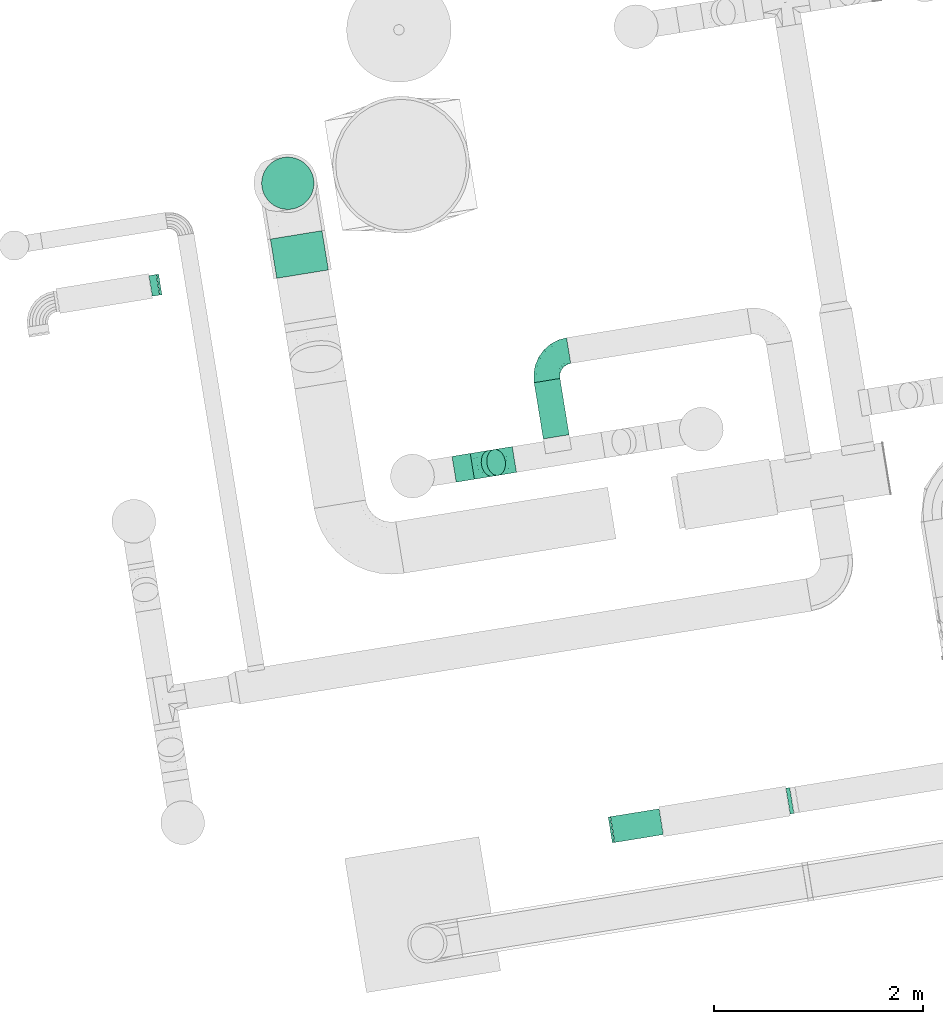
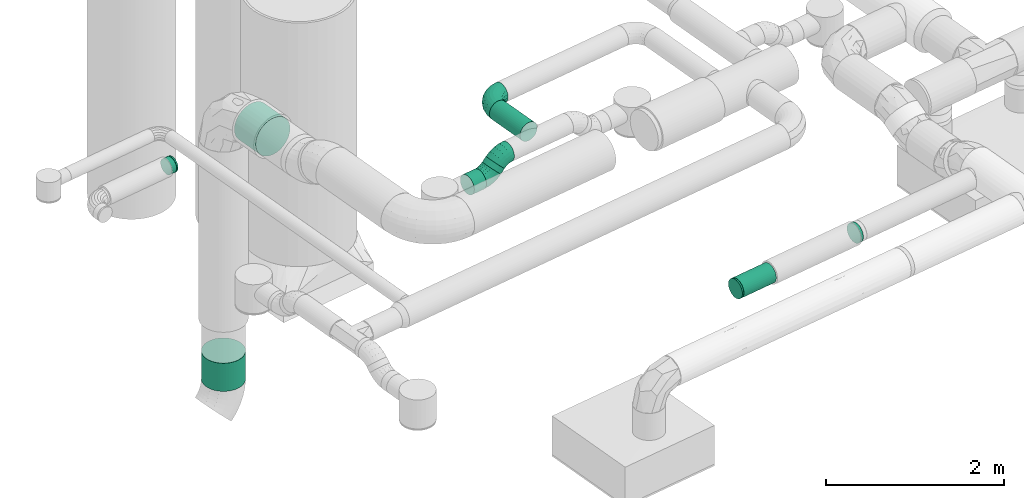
# One storey, part 17 of 39: 8 flow segments, 3 flow fittings, 2 flow terminals.
"""IFC2X3 building model written with IfcOpenShell, lengths in millimetres."""

import ifcopenshell
import ifcopenshell.guid

model = None  # the IFC model being written
_history = None  # IfcOwnerHistory: only IFC2X3 demands one
_inside = {}  # id of a spatial element -> (the spatial element, [elements in it])
_under = {}  # id of a project, library or spatial element -> (it, [spatial elements below it])
_declared = {}  # id of a project -> (the project, [libraries it declares])
_typed = {}  # id of a type object -> (the type object, [elements of that type])
_made_of = {}  # id of a material, layer set ... -> (it, [elements and type objects made of it])


def new_model(schema):
    """Start an empty IFC model of exactly this schema.

    Asked for "IFC4X3", IfcOpenShell would pick the latest addendum, in which some entities
    have other attributes; the version numbers below select the first issue.
    IFC2X3 requires an IfcOwnerHistory on every rooted entity: one is made here for all.
    """
    global model, _history
    if schema == "IFC4X3":
        model = ifcopenshell.file(schema_version=(4, 3, 0, 0))
    else:
        model = ifcopenshell.file(schema=schema)
    _inside.clear()
    _under.clear()
    _declared.clear()
    _typed.clear()
    _made_of.clear()
    _history = None
    if model.schema == "IFC2X3":
        org = make("IfcOrganization", Name="unknown")
        user = make(
            "IfcPersonAndOrganization",
            ThePerson=make("IfcPerson", FamilyName="unknown"),
            TheOrganization=org,
        )
        app = make(
            "IfcApplication",
            ApplicationDeveloper=org,
            Version="unknown",
            ApplicationFullName="unknown",
            ApplicationIdentifier="unknown",
        )
        _history = make(
            "IfcOwnerHistory",
            OwningUser=user,
            OwningApplication=app,
            ChangeAction="ADDED",
            CreationDate=0,
        )
    return model


def make(cls, **values):
    """One entity of the class cls with the attributes given. An attribute that is None is left unset."""
    return model.create_entity(
        cls, **{name: value for name, value in values.items() if value is not None}
    )


def entity(cls, *values):
    """Any entity or typed value of the class cls, its attributes in the order of the schema. None: left unset."""
    e = model.create_entity(cls)
    for i, value in enumerate(values):
        if value is not None:
            e[i] = value
    return e


def rooted(cls, **values):
    """An entity with a GlobalId (a new one), such as an element, a storey or a relation."""
    return make(cls, GlobalId=ifcopenshell.guid.new(), OwnerHistory=_history, **values)


def si_unit(unit_type, name, prefix=None):
    """IfcSIUnit, for example si_unit("LENGTHUNIT", "METRE", prefix="MILLI")."""
    return make("IfcSIUnit", UnitType=unit_type, Prefix=prefix, Name=name)


def converted_unit(unit_type, name, factor, base, dimensions=None, offset=None):
    """IfcConversionBasedUnit, such as the inch: factor (a typed value) times the base unit."""
    return make(
        "IfcConversionBasedUnit"
        if offset is None
        else "IfcConversionBasedUnitWithOffset",
        ConversionOffset=offset,
        Dimensions=None
        if dimensions is None
        else entity("IfcDimensionalExponents", *dimensions),
        UnitType=unit_type,
        Name=name,
        ConversionFactor=make(
            "IfcMeasureWithUnit", ValueComponent=factor, UnitComponent=base
        ),
    )


def derived_unit(unit_type, elements):
    """IfcDerivedUnit: a product of units, each with its exponent."""
    return make(
        "IfcDerivedUnit",
        Elements=[
            make("IfcDerivedUnitElement", Unit=unit, Exponent=power)
            for unit, power in elements
        ],
        UnitType=unit_type,
    )


def assignment(units):
    """IfcUnitAssignment: the units of a project."""
    return None if units is None else make("IfcUnitAssignment", Units=units)


def point(xyz):
    """IfcCartesianPoint."""
    return None if xyz is None else make("IfcCartesianPoint", Coordinates=xyz)


def direction(xyz):
    """IfcDirection."""
    return None if xyz is None else make("IfcDirection", DirectionRatios=xyz)


def frame(location, z_axis=None, x_axis=None):
    """IfcAxis2Placement3D, a coordinate frame: its origin and axes. An axis left out is left unset."""
    return make(
        "IfcAxis2Placement3D",
        Location=point(location),
        Axis=direction(z_axis),
        RefDirection=direction(x_axis),
    )


def frame_2d(location, x_axis=None):
    """IfcAxis2Placement2D, a coordinate frame in the plane: its origin and x axis."""
    return make(
        "IfcAxis2Placement2D", Location=point(location), RefDirection=direction(x_axis)
    )


def origin():
    """The frame at (0, 0, 0) with its axes left unset."""
    return frame((0.0, 0.0, 0.0))


def origin_with_axes():
    """The frame at (0, 0, 0) with the z axis (0, 0, 1) and the x axis (1, 0, 0) written out."""
    return frame((0.0, 0.0, 0.0), z_axis=(0.0, 0.0, 1.0), x_axis=(1.0, 0.0, 0.0))


def origin_2d_with_axis():
    """The frame at (0, 0) in the plane with the x axis (1, 0) written out."""
    return frame_2d((0.0, 0.0), x_axis=(1.0, 0.0))


def place(relative_to, where):
    """IfcLocalPlacement: puts the frame where relative to a parent placement (None: the world)."""
    return make(
        "IfcLocalPlacement", PlacementRelTo=relative_to, RelativePlacement=where
    )


def context(
    kind, dimensions, precision=None, world=None, true_north=None, identifier=None
):
    """IfcGeometricRepresentationContext, for example the 3D "Model" context."""
    return make(
        "IfcGeometricRepresentationContext",
        ContextIdentifier=identifier,
        ContextType=kind,
        CoordinateSpaceDimension=dimensions,
        Precision=precision,
        WorldCoordinateSystem=world,
        TrueNorth=true_north,
    )


def subcontext(parent, identifier, kind, view, scale=None):
    """IfcGeometricRepresentationSubContext, for example "Body" below "Model"."""
    return make(
        "IfcGeometricRepresentationSubContext",
        ContextIdentifier=identifier,
        ContextType=kind,
        ParentContext=parent,
        TargetScale=scale,
        TargetView=view,
    )


def project(units=None, contexts=None):
    """IfcProject with its units and contexts."""
    return rooted(
        "IfcProject",
        Name="project",
        RepresentationContexts=contexts,
        UnitsInContext=assignment(units),
    )


def spatial(cls, under=None, at=None, **own):
    """A site, building, storey or space (cls), placed at a placement, below another one or the project."""
    s = rooted(cls, ObjectPlacement=at, **own)
    if under is not None:
        _under.setdefault(under.id(), (under, []))[1].append(s)
    return s


def profile(cls, at=None, kind="AREA", **sizes):
    """A parametric profile (cls). Its sizes go by their IFC names, for example OverallWidth=200.0."""
    return make(cls, ProfileType=kind, Position=at, **sizes)


def circle(**sizes):
    """IfcCircleProfileDef."""
    return profile("IfcCircleProfileDef", **sizes)


def extrude(swept, where, along, depth):
    """IfcExtrudedAreaSolid: the profile swept, set in the frame where, extruded along a direction by depth."""
    return make(
        "IfcExtrudedAreaSolid",
        SweptArea=swept,
        Position=where,
        ExtrudedDirection=direction(along),
        Depth=depth,
    )


def faces_of(points, faces, orient=None, outer=None):
    """IfcFace entities. A face is a list of loops; a loop is a list of indices into points, from 0.

    orient and outer hold one flag for each loop. By default every Orientation is true, the
    first loop of a face is its IfcFaceOuterBound and the others are IfcFaceBound.
    """
    made = []
    for i, loops in enumerate(faces):
        bounds = []
        for j, loop in enumerate(loops):
            is_outer = j == 0 if outer is None else outer[i][j]
            bounds.append(
                make(
                    "IfcFaceOuterBound" if is_outer else "IfcFaceBound",
                    Bound=make("IfcPolyLoop", Polygon=[points[k] for k in loop]),
                    Orientation=True if orient is None else orient[i][j],
                )
            )
        made.append(make("IfcFace", Bounds=bounds))
    return made


def faceted_brep(points, faces, orient=None, outer=None, voids=None):
    """IfcFacetedBrep: a solid bounded by flat faces; with voids (closed shells), ...WithVoids."""
    shared = [point(p) for p in points]
    hull = make("IfcClosedShell", CfsFaces=faces_of(shared, faces, orient, outer))
    if voids is None:
        return make("IfcFacetedBrep", Outer=hull)
    return make(
        "IfcFacetedBrepWithVoids",
        Outer=hull,
        Voids=[
            make(cls, CfsFaces=faces_of(shared, fs, o, b)) for cls, fs, o, b in voids
        ],
    )


def shape(context_of_items, identifier, shape_type, items):
    """IfcShapeRepresentation: the items that make up one representation, for example the "Body"."""
    return make(
        "IfcShapeRepresentation",
        ContextOfItems=context_of_items,
        RepresentationIdentifier=identifier,
        RepresentationType=shape_type,
        Items=items,
    )


def source(mapping_origin, context_of_items, identifier, shape_type, items):
    """IfcRepresentationMap: a shape defined once, which mapped items show again and again."""
    return make(
        "IfcRepresentationMap",
        MappingOrigin=mapping_origin,
        MappedRepresentation=shape(context_of_items, identifier, shape_type, items),
    )


def transform(
    local_origin,
    x_axis=None,
    y_axis=None,
    z_axis=None,
    scale=None,
    scale2=None,
    scale3=None,
    uniform=True,
):
    """IfcCartesianTransformationOperator3D, or its non-uniform kind. x_axis, y_axis, z_axis: its Axis1, 2, 3."""
    if uniform:
        return make(
            "IfcCartesianTransformationOperator3D",
            Axis1=direction(x_axis),
            Axis2=direction(y_axis),
            LocalOrigin=point(local_origin),
            Scale=scale,
            Axis3=direction(z_axis),
        )
    return make(
        "IfcCartesianTransformationOperator3DnonUniform",
        Axis1=direction(x_axis),
        Axis2=direction(y_axis),
        LocalOrigin=point(local_origin),
        Scale=scale,
        Axis3=direction(z_axis),
        Scale2=scale2,
        Scale3=scale3,
    )


def mapped(mapping_source, mapping_target):
    """IfcMappedItem: shows the shape of a source again, moved by a transform."""
    return make(
        "IfcMappedItem", MappingSource=mapping_source, MappingTarget=mapping_target
    )


def material(Name=None, Category=None):
    """IfcMaterial."""
    return make("IfcMaterial", Name=Name, Category=Category)


def made_of(thing, what):
    """Note that an element or type object is made of a material, layer set ...; save() writes the relation."""
    if what is not None:
        _made_of.setdefault(what.id(), (what, []))[1].append(thing)
    return thing


def type_object(cls, material=None, **own):
    """A type object (cls), such as IfcWallType, which elements share."""
    return made_of(rooted(cls, **own), material)


def element(
    cls,
    number,
    at=None,
    inside=None,
    cuts=None,
    type_object=None,
    material=None,
    context=None,
    identifier="Body",
    shape_type=None,
    held_by="IfcProductDefinitionShape",
    body=None,
    shapes=None,
    **own,
):
    """One element of the class cls, such as IfcWall. Its Tag is "e" and its number.

    at: its placement. inside: the storey or other place that contains it. cuts: it is an
    opening in that element (IfcRelVoidsElement). A single representation is given by context,
    identifier, shape_type and body (its items); several are given by shapes. held_by: the class
    of the entity that holds the representations. save() writes the other relations.
    """
    e = rooted(cls, Tag="e%d" % number, ObjectPlacement=at, **own)
    if body is not None:
        shapes = [shape(context, identifier, shape_type, body)]
    if shapes is not None:
        e.Representation = make(held_by, Representations=shapes)
    if inside is not None:
        _inside.setdefault(inside.id(), (inside, []))[1].append(e)
    if cuts is not None:
        rooted(
            "IfcRelVoidsElement", RelatingBuildingElement=cuts, RelatedOpeningElement=e
        )
    if type_object is not None:
        _typed.setdefault(type_object.id(), (type_object, []))[1].append(e)
    return made_of(e, material)


def aggregate(whole, parts):
    """IfcRelAggregates: a whole, such as a stair, and the parts it consists of."""
    return rooted("IfcRelAggregates", RelatingObject=whole, RelatedObjects=parts)


def save(model, path):
    """Write the relations noted so far, then the file.

    IfcRelAggregates (storeys below a building ...), IfcRelContainedInSpatialStructure (elements
    in a storey), IfcRelDefinesByType, IfcRelAssociatesMaterial and IfcRelDeclares: one each for
    every whole, place, type object, material and project.
    """
    for whole, parts in _under.values():
        aggregate(whole, parts)
    for where, things in _inside.values():
        rooted(
            "IfcRelContainedInSpatialStructure",
            RelatedElements=things,
            RelatingStructure=where,
        )
    for kind, things in _typed.values():
        rooted("IfcRelDefinesByType", RelatedObjects=things, RelatingType=kind)
    for what, things in _made_of.values():
        rooted("IfcRelAssociatesMaterial", RelatedObjects=things, RelatingMaterial=what)
    for by, libraries in _declared.values():
        rooted("IfcRelDeclares", RelatingContext=by, RelatedDefinitions=libraries)
    model.write(path)


model = new_model("IFC2X3")

# Units and contexts
model_context = context("Model", 3, precision=0.01, world=origin(), true_north=direction((6.12323399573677e-17, 1.0)))
plan_context = context("Plan", 3, precision=1e-05, world=origin_with_axes())
body_context = subcontext(model_context, "Body", "Model", "MODEL_VIEW")
ifc_project = project(units=[converted_unit("PLANEANGLEUNIT", "DEGREE", entity("IfcPositiveLengthMeasure", 0.0174532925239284), si_unit("PLANEANGLEUNIT", "RADIAN"), dimensions=[0, 0, 0, 0, 0, 0, 0]), si_unit("AREAUNIT", "SQUARE_METRE"), si_unit("LENGTHUNIT", "METRE", prefix="MILLI"), si_unit("MASSUNIT", "GRAM", prefix="KILO"), si_unit("POWERUNIT", "WATT"), si_unit("PRESSUREUNIT", "PASCAL", prefix="KILO"), si_unit("FORCEUNIT", "NEWTON", prefix="KILO"), si_unit("ELECTRICVOLTAGEUNIT", "VOLT"), si_unit("ELECTRICCURRENTUNIT", "AMPERE"), si_unit("THERMODYNAMICTEMPERATUREUNIT", "DEGREE_CELSIUS"), si_unit("TIMEUNIT", "SECOND"), si_unit("VOLUMEUNIT", "CUBIC_METRE"), derived_unit("LINEARVELOCITYUNIT", [(si_unit("LENGTHUNIT", "METRE"), 1), (si_unit("TIMEUNIT", "SECOND"), -1)]), derived_unit("VOLUMETRICFLOWRATEUNIT", [(si_unit("VOLUMEUNIT", "CUBIC_METRE"), 1), (si_unit("TIMEUNIT", "SECOND"), -1)]), derived_unit("THERMALTRANSMITTANCEUNIT", [(si_unit("POWERUNIT", "WATT"), 1), (si_unit("THERMODYNAMICTEMPERATUREUNIT", "KELVIN"), -1), (si_unit("AREAUNIT", "SQUARE_METRE"), -1)]), derived_unit("SOUNDPRESSUREUNIT", [(si_unit("PRESSUREUNIT", "PASCAL"), 1)])], contexts=[model_context, plan_context])

# Site, building, storey
site_placement = place(None, frame((-0.00071070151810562, 0.00438415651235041, 0.0), z_axis=(0.0, 0.0, 1.0), x_axis=(-0.160236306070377, 0.987078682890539, 0.0)))
site = spatial("IfcSite", under=ifc_project, at=site_placement, Name="Default", CompositionType="ELEMENT")
building_placement = place(site_placement, origin_with_axes())
building = spatial("IfcBuilding", under=site, at=building_placement, CompositionType="ELEMENT")
storey_placement = place(building_placement, frame((0.0, 0.0, 50999.9999999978), z_axis=(0.0, 0.0, 1.0), x_axis=(1.0, 0.0, 0.0)))
storey = spatial("IfcBuildingStorey", under=building, at=storey_placement, Name="Nivå D", CompositionType="ELEMENT", Elevation=50999.9999999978)

# Flow fittings
ifc_material = material(Name="<Unnamed>")
duct_fitting_type_1 = type_object("IfcDuctFittingType", Name="magicirc_elbow_full_radius_1:magicirc_elbow_full_radius_001", PredefinedType="NOTDEFINED", material=ifc_material)
shared_shape_1 = source(origin(), body_context, "Body", "Brep", [
    faceted_brep([(-30.3945198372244, 117.794480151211, 0.0), (-31.5880698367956, 111.79409910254, -38.6271242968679), (-103.553390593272, 118.882064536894, -38.6271242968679), (-103.553390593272, 125.0, 0.0), (-35.0518868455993, 94.3803150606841, -73.4731565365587), (-103.553390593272, 101.127124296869, -73.4731565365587), (-40.4469083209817, 67.2577105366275, -101.127124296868), (-103.553390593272, 73.4731565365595, -101.127124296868), (-47.2450319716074, 33.0812350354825, -118.882064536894), (-103.553390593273, 38.6271242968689, -118.882064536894), (-54.7808100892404, -4.80367989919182, -125.0), (-103.553390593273, 0.0, -125.0), (-62.3165882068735, -42.6885948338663, -118.882064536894), (-103.553390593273, -38.6271242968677, -118.882064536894), (-69.1147118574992, -76.8650703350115, -101.127124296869), (-103.553390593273, -73.4731565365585, -101.127124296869), (-74.5097333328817, -103.987674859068, -73.4731565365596), (-103.553390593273, -101.127124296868, -73.4731565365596), (-77.9735503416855, -121.401458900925, -38.6271242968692), (-103.553390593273, -118.882064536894, -38.6271242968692), (-79.1671003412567, -127.401839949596, 0.0), (-103.553390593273, -125.0, 0.0), (-77.9735503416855, -121.401458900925, 38.6271242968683), (-103.553390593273, -118.882064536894, 38.6271242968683), (-74.5097333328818, -103.987674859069, 73.4731565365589), (-103.553390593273, -101.127124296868, 73.4731565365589), (-69.1147118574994, -76.8650703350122, 101.127124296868), (-103.553390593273, -73.4731565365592, 101.127124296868), (-62.3165882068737, -42.6885948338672, 118.882064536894), (-103.553390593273, -38.6271242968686, 118.882064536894), (-54.7808100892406, -4.80367989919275, 125.0), (-103.553390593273, 0.0, 125.0), (-47.2450319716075, 33.0812350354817, 118.882064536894), (-103.553390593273, 38.6271242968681, 118.882064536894), (-40.4469083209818, 67.2577105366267, 101.127124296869), (-103.553390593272, 73.4731565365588, 101.127124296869), (-35.0518868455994, 94.3803150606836, 73.4731565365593), (-103.553390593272, 101.127124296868, 73.4731565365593), (-31.5880698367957, 111.79409910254, 38.6271242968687), (-103.553390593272, 118.882064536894, 38.6271242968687), (39.952896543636, 96.4548246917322, 0.0), (37.6116640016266, 90.8025893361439, -38.6271242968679), (30.8171425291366, 74.3991634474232, -73.4731565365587), (20.2344272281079, 48.8502286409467, -101.127124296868), (6.89942800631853, 16.6566926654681, -118.882064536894), (-7.88253250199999, -19.0301168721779, -125.0), (-22.6644930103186, -54.716926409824, -118.882064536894), (-35.9994922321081, -86.9104623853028, -101.127124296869), (-46.5822075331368, -112.45939719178, -73.4731565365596), (-53.376729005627, -128.862823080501, -38.6271242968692), (-55.7179615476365, -134.515058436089, 0.0), (-53.3767290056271, -128.862823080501, 38.6271242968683), (-46.582207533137, -112.45939719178, 73.4731565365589), (-35.9994922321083, -86.9104623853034, 101.127124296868), (-22.6644930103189, -54.7169264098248, 118.882064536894), (-7.88253250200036, -19.0301168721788, 125.0), (6.89942800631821, 16.6566926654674, 118.882064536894), (20.2344272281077, 48.850228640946, 101.127124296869), (30.8171425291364, 74.3991634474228, 73.4731565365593), (37.6116640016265, 90.8025893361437, 38.6271242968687), (104.785446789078, 61.801104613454, 0.0), (101.386503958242, 56.7142271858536, -38.6271242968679), (91.5223876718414, 41.9515339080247, -73.4731565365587), (76.1586663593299, 18.9581000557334, -101.127124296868), (56.7992481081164, -10.0153168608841, -118.882064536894), (35.3391676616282, -42.1325969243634, -125.0), (13.8790872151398, -74.2498769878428, -118.882064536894), (-5.48033103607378, -103.22329390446, -101.127124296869), (-20.8440523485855, -126.216727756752, -73.4731565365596), (-30.7081686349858, -140.979421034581, -38.6271242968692), (-34.1071114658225, -146.066298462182, 0.0), (-30.7081686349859, -140.979421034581, 38.6271242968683), (-20.8440523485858, -126.216727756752, 73.4731565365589), (-5.48033103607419, -103.223293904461, 101.127124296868), (13.8790872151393, -74.2498769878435, 118.882064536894), (35.3391676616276, -42.1325969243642, 125.0), (56.799248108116, -10.0153168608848, 118.882064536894), (76.1586663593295, 18.9581000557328, 101.127124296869), (91.5223876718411, 41.9515339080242, 73.4731565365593), (101.386503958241, 56.7142271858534, 38.6271242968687), (161.611652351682, 15.1650429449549, 0.0), (157.285618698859, 10.8390092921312, -38.6271242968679), (144.730980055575, -1.71562935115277, -73.4731565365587), (125.176671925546, -21.2699374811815, -101.127124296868), (100.536806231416, -45.9098031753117, -118.882064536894), (73.2233047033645, -73.2233047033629, -125.0), (45.9098031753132, -100.536806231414, -118.882064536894), (21.2699374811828, -125.176671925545, -101.127124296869), (1.71562935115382, -144.730980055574, -73.4731565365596), (-10.8390092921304, -157.285618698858, -38.6271242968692), (-15.1650429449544, -161.611652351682, 0.0), (-10.8390092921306, -157.285618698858, 38.6271242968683), (1.71562935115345, -144.730980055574, 73.4731565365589), (21.2699374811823, -125.176671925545, 101.127124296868), (45.9098031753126, -100.536806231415, 118.882064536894), (73.2233047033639, -73.2233047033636, 125.0), (100.536806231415, -45.9098031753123, 118.882064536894), (125.176671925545, -21.269937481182, 101.127124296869), (144.730980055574, -1.71562935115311, 73.4731565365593), (157.285618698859, 10.8390092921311, 38.6271242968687)], [[[0, 1, 2, 3]], [[1, 4, 5, 2]], [[4, 6, 7, 5]], [[6, 8, 9, 7]], [[8, 10, 11, 9]], [[10, 12, 13, 11]], [[12, 14, 15, 13]], [[14, 16, 17, 15]], [[16, 18, 19, 17]], [[18, 20, 21, 19]], [[20, 22, 23, 21]], [[22, 24, 25, 23]], [[24, 26, 27, 25]], [[26, 28, 29, 27]], [[28, 30, 31, 29]], [[30, 32, 33, 31]], [[32, 34, 35, 33]], [[34, 36, 37, 35]], [[36, 38, 39, 37]], [[38, 0, 3, 39]], [[40, 41, 1, 0]], [[41, 42, 4, 1]], [[42, 43, 6, 4]], [[43, 44, 8, 6]], [[44, 45, 10, 8]], [[45, 46, 12, 10]], [[46, 47, 14, 12]], [[47, 48, 16, 14]], [[48, 49, 18, 16]], [[49, 50, 20, 18]], [[50, 51, 22, 20]], [[51, 52, 24, 22]], [[52, 53, 26, 24]], [[53, 54, 28, 26]], [[54, 55, 30, 28]], [[55, 56, 32, 30]], [[56, 57, 34, 32]], [[57, 58, 36, 34]], [[58, 59, 38, 36]], [[59, 40, 0, 38]], [[60, 61, 41, 40]], [[61, 62, 42, 41]], [[62, 63, 43, 42]], [[63, 64, 44, 43]], [[64, 65, 45, 44]], [[65, 66, 46, 45]], [[66, 67, 47, 46]], [[67, 68, 48, 47]], [[68, 69, 49, 48]], [[69, 70, 50, 49]], [[70, 71, 51, 50]], [[71, 72, 52, 51]], [[72, 73, 53, 52]], [[73, 74, 54, 53]], [[74, 75, 55, 54]], [[75, 76, 56, 55]], [[76, 77, 57, 56]], [[77, 78, 58, 57]], [[78, 79, 59, 58]], [[79, 60, 40, 59]], [[80, 81, 61, 60]], [[81, 82, 62, 61]], [[82, 83, 63, 62]], [[83, 84, 64, 63]], [[84, 85, 65, 64]], [[85, 86, 66, 65]], [[86, 87, 67, 66]], [[87, 88, 68, 67]], [[88, 89, 69, 68]], [[89, 90, 70, 69]], [[90, 91, 71, 70]], [[91, 92, 72, 71]], [[92, 93, 73, 72]], [[93, 94, 74, 73]], [[94, 95, 75, 74]], [[95, 96, 76, 75]], [[96, 97, 77, 76]], [[97, 98, 78, 77]], [[98, 99, 79, 78]], [[99, 80, 60, 79]], [[3, 2, 5, 7, 9, 11, 13, 15, 17, 19, 21, 23, 25, 27, 29, 31, 33, 35, 37, 39]], [[99, 98, 97, 96, 95, 94, 93, 92, 91, 90, 89, 88, 87, 86, 85, 84, 83, 82, 81, 80]]]),
])
for number, where, z_axis, x_axis, name in (
    (1, (773669.47928963, -596649.126266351, 3310.0), (1.0, 0.0, 0.0), (0.0, 1.0, 0.0), "magicirc_elbow_full_radius_1:magicirc_elbow_full_radius_001"),
    (2, (773669.479289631, -596449.126266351, 3110.0), (1.0, 0.0, 0.0), (0.0, -1.0, 0.0), "magicirc_elbow_full_radius_1:magicirc_elbow_full_radius_001"),
):
    element("IfcFlowFitting", number, at=place(storey_placement, frame(where, z_axis=z_axis, x_axis=x_axis)), inside=storey, type_object=duct_fitting_type_1, material=ifc_material, Name=name, ObjectType="magicirc_elbow_full_radius_1:magicirc_elbow_full_radius_001", context=body_context, shape_type="MappedRepresentation", body=[
        mapped(shared_shape_1, transform((0.0, 0.0, 0.0), scale=1.0)),
    ])
duct_fitting_type_2 = type_object("IfcDuctFittingType", Name="magicirc_elbow_full_radius_1:magicirc_elbow_full_radius_001", PredefinedType="NOTDEFINED", material=ifc_material)
shared_shape_2 = source(origin(), body_context, "Body", "Brep", [
    faceted_brep([(-166.554649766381, -115.597967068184, 0.0), (-167.916018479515, -109.633421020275, 38.6271242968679), (-250.0, -118.882064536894, 38.6271242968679), (-250.0, -125.0, 0.0), (-171.866864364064, -92.3236342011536, 73.4731565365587), (-250.0, -101.127124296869, 73.4731565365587), (-178.020451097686, -65.363009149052, 101.127124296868), (-250.0, -73.4731565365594, 101.127124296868), (-185.774422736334, -31.3906396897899, 118.882064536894), (-250.0, -38.6271242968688, 118.882064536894), (-194.36976651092, 6.26802195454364, 125.0), (-250.0, 0.0, 125.0), (-202.965110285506, 43.9266835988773, 118.882064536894), (-250.0, 38.6271242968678, 118.882064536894), (-210.719081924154, 77.8990530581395, 101.127124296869), (-250.0, 73.4731565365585, 101.127124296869), (-216.872668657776, 104.859678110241, 73.4731565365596), (-250.0, 101.127124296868, 73.4731565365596), (-220.823514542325, 122.169464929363, 38.6271242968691), (-250.0, 118.882064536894, 38.6271242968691), (-222.18488325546, 128.134010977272, 0.0), (-250.0, 125.0, 0.0), (-220.823514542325, 122.169464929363, -38.6271242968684), (-250.0, 118.882064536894, -38.6271242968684), (-216.872668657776, 104.859678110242, -73.473156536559), (-250.0, 101.127124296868, -73.473156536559), (-210.719081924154, 77.8990530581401, -101.127124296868), (-250.0, 73.4731565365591, -101.127124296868), (-202.965110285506, 43.926683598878, -118.882064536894), (-250.0, 38.6271242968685, -118.882064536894), (-194.36976651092, 6.26802195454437, -125.0), (-250.0, 0.0, -125.0), (-185.774422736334, -31.3906396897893, -118.882064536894), (-250.0, -38.6271242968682, -118.882064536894), (-178.020451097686, -65.3630091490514, -101.127124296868), (-250.0, -73.4731565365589, -101.127124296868), (-171.866864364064, -92.3236342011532, -73.4731565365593), (-250.0, -101.127124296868, -73.4731565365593), (-167.916018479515, -109.633421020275, -38.6271242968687), (-250.0, -118.882064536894, -38.6271242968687), (-87.2935978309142, -87.8633254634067, 0.0), (-89.9480705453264, -82.3512560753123, 38.6271242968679), (-97.6516504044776, -66.3546076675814, 73.4731565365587), (-109.650257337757, -41.4392436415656, 101.127124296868), (-124.769384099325, -10.0440534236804, 118.882064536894), (-141.529065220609, 24.7577830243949, 125.0), (-158.288746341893, 59.5596194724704, 118.882064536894), (-173.407873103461, 90.9548096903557, 101.127124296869), (-185.406480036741, 115.870173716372, 73.4731565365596), (-193.110059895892, 131.866822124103, 38.6271242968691), (-195.764532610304, 137.378891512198, 0.0), (-193.110059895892, 131.866822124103, -38.6271242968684), (-185.406480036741, 115.870173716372, -73.473156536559), (-173.407873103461, 90.9548096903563, -101.127124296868), (-158.288746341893, 59.5596194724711, -118.882064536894), (-141.529065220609, 24.7577830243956, -125.0), (-124.769384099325, -10.0440534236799, -118.882064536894), (-109.650257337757, -41.4392436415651, -101.127124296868), (-97.6516504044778, -66.354607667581, -73.4731565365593), (-89.9480705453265, -82.3512560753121, -38.6271242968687), (-16.1913243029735, -43.1868059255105, 0.0), (-20.0057946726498, -38.4036113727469, 38.6271242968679), (-31.0758188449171, -24.5222401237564, 73.4731565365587), (-48.3177857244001, -2.90149751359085, 101.127124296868), (-70.0439314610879, 24.3422275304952, 118.882064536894), (-94.127549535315, 54.5421293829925, 125.0), (-118.211167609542, 84.7420312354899, 118.882064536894), (-139.93731334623, 111.985756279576, 101.127124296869), (-157.179280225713, 133.606498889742, 73.4731565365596), (-168.249304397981, 147.487870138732, 38.6271242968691), (-172.063774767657, 152.271064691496, 0.0), (-168.249304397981, 147.487870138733, -38.6271242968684), (-157.179280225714, 133.606498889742, -73.473156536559), (-139.937313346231, 111.985756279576, -101.127124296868), (-118.211167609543, 84.7420312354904, -118.882064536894), (-94.1275495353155, 54.5421293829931, -125.0), (-70.0439314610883, 24.3422275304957, -118.882064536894), (-48.3177857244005, -2.9014975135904, -101.127124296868), (-31.0758188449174, -24.5222401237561, -73.4731565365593), (-20.00579467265, -38.4036113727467, -38.6271242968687), (43.1868059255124, 16.1913243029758, 0.0), (38.4036113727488, 20.005794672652, 38.6271242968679), (24.5222401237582, 31.0758188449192, 73.4731565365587), (2.9014975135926, 48.3177857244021, 101.127124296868), (-24.3422275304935, 70.0439314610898, 118.882064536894), (-54.5421293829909, 94.1275495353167, 125.0), (-84.7420312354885, 118.211167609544, 118.882064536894), (-111.985756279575, 139.937313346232, 101.127124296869), (-133.60649888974, 157.179280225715, 73.4731565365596), (-147.487870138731, 168.249304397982, 38.6271242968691), (-152.271064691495, 172.063774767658, 0.0), (-147.487870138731, 168.249304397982, -38.6271242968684), (-133.606498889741, 157.179280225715, -73.473156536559), (-111.985756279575, 139.937313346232, -101.127124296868), (-84.742031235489, 118.211167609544, -118.882064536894), (-54.5421293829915, 94.1275495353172, -125.0), (-24.342227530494, 70.0439314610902, -118.882064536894), (2.90149751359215, 48.3177857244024, -101.127124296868), (24.5222401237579, 31.0758188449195, -73.4731565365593), (38.4036113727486, 20.0057946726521, -38.6271242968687), (87.8633254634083, 87.2935978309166, 0.0), (82.3512560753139, 89.9480705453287, 38.6271242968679), (66.3546076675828, 97.6516504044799, 73.4731565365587), (41.4392436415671, 109.650257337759, 101.127124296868), (10.0440534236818, 124.769384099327, 118.882064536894), (-24.7577830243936, 141.529065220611, 125.0), (-59.5596194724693, 158.288746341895, 118.882064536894), (-90.9548096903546, 173.407873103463, 101.127124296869), (-115.870173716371, 185.406480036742, 73.4731565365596), (-131.866822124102, 193.110059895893, 38.6271242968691), (-137.378891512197, 195.764532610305, 0.0), (-131.866822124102, 193.110059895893, -38.6271242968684), (-115.870173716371, 185.406480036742, -73.473156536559), (-90.9548096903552, 173.407873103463, -101.127124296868), (-59.5596194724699, 158.288746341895, -118.882064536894), (-24.7577830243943, 141.529065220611, -125.0), (10.0440534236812, 124.769384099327, -118.882064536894), (41.4392436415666, 109.650257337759, -101.127124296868), (66.3546076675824, 97.65165040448, -73.4731565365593), (82.3512560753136, 89.9480705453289, -38.6271242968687), (115.597967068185, 166.554649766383, 0.0), (109.633421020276, 167.916018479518, 38.6271242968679), (92.3236342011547, 171.866864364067, 73.4731565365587), (65.3630091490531, 178.020451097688, 101.127124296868), (31.390639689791, 185.774422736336, 118.882064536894), (-6.26802195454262, 194.369766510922, 125.0), (-43.9266835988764, 202.965110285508, 118.882064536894), (-77.8990530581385, 210.719081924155, 101.127124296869), (-104.85967811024, 216.872668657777, 73.4731565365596), (-122.169464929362, 220.823514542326, 38.6271242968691), (-128.134010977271, 222.184883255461, 0.0), (-122.169464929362, 220.823514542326, -38.6271242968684), (-104.859678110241, 216.872668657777, -73.473156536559), (-77.8990530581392, 210.719081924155, -101.127124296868), (-43.926683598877, 202.965110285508, -118.882064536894), (-6.26802195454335, 194.369766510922, -125.0), (31.3906396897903, 185.774422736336, -118.882064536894), (65.3630091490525, 178.020451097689, -101.127124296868), (92.3236342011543, 171.866864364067, -73.4731565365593), (109.633421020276, 167.916018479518, -38.6271242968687), (125.0, 250.0, 0.0), (118.882064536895, 250.0, 38.6271242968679), (101.127124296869, 250.0, 73.4731565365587), (73.4731565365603, 250.0, 101.127124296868), (38.6271242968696, 250.0, 118.882064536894), (0.0, 250.0, 125.0), (-38.627124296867, 250.0, 118.882064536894), (-73.4731565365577, 250.0, 101.127124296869), (-101.127124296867, 250.0, 73.4731565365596), (-118.882064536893, 250.0, 38.6271242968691), (-125.0, 250.0, 0.0), (-118.882064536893, 250.0, -38.6271242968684), (-101.127124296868, 250.0, -73.473156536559), (-73.4731565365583, 250.0, -101.127124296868), (-38.6271242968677, 250.0, -118.882064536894), (0.0, 250.0, -125.0), (38.627124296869, 250.0, -118.882064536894), (73.4731565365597, 250.0, -101.127124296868), (101.127124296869, 250.0, -73.4731565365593), (118.882064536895, 250.0, -38.6271242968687)], [[[0, 1, 2, 3]], [[1, 4, 5, 2]], [[4, 6, 7, 5]], [[6, 8, 9, 7]], [[8, 10, 11, 9]], [[10, 12, 13, 11]], [[12, 14, 15, 13]], [[14, 16, 17, 15]], [[16, 18, 19, 17]], [[18, 20, 21, 19]], [[20, 22, 23, 21]], [[22, 24, 25, 23]], [[24, 26, 27, 25]], [[26, 28, 29, 27]], [[28, 30, 31, 29]], [[30, 32, 33, 31]], [[32, 34, 35, 33]], [[34, 36, 37, 35]], [[36, 38, 39, 37]], [[38, 0, 3, 39]], [[40, 41, 1, 0]], [[41, 42, 4, 1]], [[42, 43, 6, 4]], [[43, 44, 8, 6]], [[44, 45, 10, 8]], [[45, 46, 12, 10]], [[46, 47, 14, 12]], [[47, 48, 16, 14]], [[48, 49, 18, 16]], [[49, 50, 20, 18]], [[50, 51, 22, 20]], [[51, 52, 24, 22]], [[52, 53, 26, 24]], [[53, 54, 28, 26]], [[54, 55, 30, 28]], [[55, 56, 32, 30]], [[56, 57, 34, 32]], [[57, 58, 36, 34]], [[58, 59, 38, 36]], [[59, 40, 0, 38]], [[60, 61, 41, 40]], [[61, 62, 42, 41]], [[62, 63, 43, 42]], [[63, 64, 44, 43]], [[64, 65, 45, 44]], [[65, 66, 46, 45]], [[66, 67, 47, 46]], [[67, 68, 48, 47]], [[68, 69, 49, 48]], [[69, 70, 50, 49]], [[70, 71, 51, 50]], [[71, 72, 52, 51]], [[72, 73, 53, 52]], [[73, 74, 54, 53]], [[74, 75, 55, 54]], [[75, 76, 56, 55]], [[76, 77, 57, 56]], [[77, 78, 58, 57]], [[78, 79, 59, 58]], [[79, 60, 40, 59]], [[80, 81, 61, 60]], [[81, 82, 62, 61]], [[82, 83, 63, 62]], [[83, 84, 64, 63]], [[84, 85, 65, 64]], [[85, 86, 66, 65]], [[86, 87, 67, 66]], [[87, 88, 68, 67]], [[88, 89, 69, 68]], [[89, 90, 70, 69]], [[90, 91, 71, 70]], [[91, 92, 72, 71]], [[92, 93, 73, 72]], [[93, 94, 74, 73]], [[94, 95, 75, 74]], [[95, 96, 76, 75]], [[96, 97, 77, 76]], [[97, 98, 78, 77]], [[98, 99, 79, 78]], [[99, 80, 60, 79]], [[100, 101, 81, 80]], [[101, 102, 82, 81]], [[102, 103, 83, 82]], [[103, 104, 84, 83]], [[104, 105, 85, 84]], [[105, 106, 86, 85]], [[106, 107, 87, 86]], [[107, 108, 88, 87]], [[108, 109, 89, 88]], [[109, 110, 90, 89]], [[110, 111, 91, 90]], [[111, 112, 92, 91]], [[112, 113, 93, 92]], [[113, 114, 94, 93]], [[114, 115, 95, 94]], [[115, 116, 96, 95]], [[116, 117, 97, 96]], [[117, 118, 98, 97]], [[118, 119, 99, 98]], [[119, 100, 80, 99]], [[120, 121, 101, 100]], [[121, 122, 102, 101]], [[122, 123, 103, 102]], [[123, 124, 104, 103]], [[124, 125, 105, 104]], [[125, 126, 106, 105]], [[126, 127, 107, 106]], [[127, 128, 108, 107]], [[128, 129, 109, 108]], [[129, 130, 110, 109]], [[130, 131, 111, 110]], [[131, 132, 112, 111]], [[132, 133, 113, 112]], [[133, 134, 114, 113]], [[134, 135, 115, 114]], [[135, 136, 116, 115]], [[136, 137, 117, 116]], [[137, 138, 118, 117]], [[138, 139, 119, 118]], [[139, 120, 100, 119]], [[140, 141, 121, 120]], [[141, 142, 122, 121]], [[142, 143, 123, 122]], [[143, 144, 124, 123]], [[144, 145, 125, 124]], [[145, 146, 126, 125]], [[146, 147, 127, 126]], [[147, 148, 128, 127]], [[148, 149, 129, 128]], [[149, 150, 130, 129]], [[150, 151, 131, 130]], [[151, 152, 132, 131]], [[152, 153, 133, 132]], [[153, 154, 134, 133]], [[154, 155, 135, 134]], [[155, 156, 136, 135]], [[156, 157, 137, 136]], [[157, 158, 138, 137]], [[158, 159, 139, 138]], [[159, 140, 120, 139]], [[3, 2, 5, 7, 9, 11, 13, 15, 17, 19, 21, 23, 25, 27, 29, 31, 33, 35, 37, 39]], [[159, 158, 157, 156, 155, 154, 153, 152, 151, 150, 149, 148, 147, 146, 145, 144, 143, 142, 141, 140]]]),
])
flow_fitting_placement = place(storey_placement, frame((774614.47928963, -597182.555921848, 3310.0), z_axis=(0.0, 0.0, 1.0), x_axis=(0.0, 1.0, 0.0)))
element("IfcFlowFitting", 3, at=flow_fitting_placement, inside=storey, type_object=duct_fitting_type_2, material=ifc_material, Name="magicirc_elbow_full_radius_1:magicirc_elbow_full_radius_001", ObjectType="magicirc_elbow_full_radius_1:magicirc_elbow_full_radius_001", context=body_context, shape_type="MappedRepresentation", body=[
    mapped(shared_shape_2, transform((0.0, 0.0, 0.0), scale=1.0)),
])

# Flow terminals
air_terminal_type_1 = type_object("IfcAirTerminalType", Name="FRALUFTSVENTIL -  - SF002T:FRALUFTSVENTIL - NETTING-200 - SF002T", PredefinedType="NOTDEFINED", material=ifc_material)
shared_shape_3 = source(origin(), body_context, "Body", "SweptSolid", [
    extrude(circle(Radius=99.9999999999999, at=frame_2d((-2.0293653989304e-15, -1.61554457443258e-13), x_axis=(1.0, 0.0))), origin(), (0.0, 0.0, 1.0), 20.0),
])
flow_terminal_1_placement = place(storey_placement, frame((775865.219644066, -593658.041774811, 3310.0), z_axis=(0.0, -1.0, 0.0), x_axis=(0.0, 0.0, -1.0)))
element("IfcFlowTerminal", 4, at=flow_terminal_1_placement, inside=storey, type_object=air_terminal_type_1, material=ifc_material, Name="FRALUFTSVENTIL -  - SF002T:FRALUFTSVENTIL - NETTING-200 - SF002T", ObjectType="FRALUFTSVENTIL -  - SF002T:FRALUFTSVENTIL - NETTING-200 - SF002T", context=body_context, shape_type="MappedRepresentation", body=[
    mapped(shared_shape_3, transform((0.0, 0.0, 0.0), scale=1.0)),
])
air_terminal_type_2 = type_object("IfcAirTerminalType", Name="FRALUFTSVENTIL -  - SF002T:FRALUFTSVENTIL - NETTING-250 - SF002T", PredefinedType="NOTDEFINED", material=ifc_material)
shared_shape_4 = source(origin(), body_context, "Body", "SweptSolid", [
    extrude(circle(Radius=125.0, at=frame_2d((-2.0293653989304e-15, -2.01943071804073e-13), x_axis=(1.0, 0.0))), origin(), (0.0, 0.0, 1.0), 20.0),
])
flow_terminal_2_placement = place(storey_placement, frame((770024.832653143, -597110.614308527, 3250.0), z_axis=(0.0, 1.0, 0.0), x_axis=(0.0, 0.0, -1.0)))
element("IfcFlowTerminal", 5, at=flow_terminal_2_placement, inside=storey, type_object=air_terminal_type_2, material=ifc_material, Name="FRALUFTSVENTIL -  - SF002T:FRALUFTSVENTIL - NETTING-250 - SF002T", ObjectType="FRALUFTSVENTIL -  - SF002T:FRALUFTSVENTIL - NETTING-250 - SF002T", context=body_context, shape_type="MappedRepresentation", body=[
    mapped(shared_shape_4, transform((0.0, 0.0, 0.0), scale=1.0)),
])

# Flow segments
duct_segment_type = type_object("IfcDuctSegmentType", Name="Round Duct:KK001T - Spiro kanaler, Forsinket stål", PredefinedType="NOTDEFINED")
flow_segment_1_placement = place(storey_placement, origin_with_axes())
element("IfcFlowSegment", 6, at=flow_segment_1_placement, inside=storey, type_object=duct_segment_type, Name="Round Duct:KK001T - Spiro kanaler, Forsinket stål", ObjectType="Round Duct:KK001T - Spiro kanaler, Forsinket stål", context=body_context, shape_type="SweptSolid", body=[
    extrude(circle(Radius=250.0, at=origin_2d_with_axis()), frame((775744.369644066, -595037.180498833, 3150.0), z_axis=(1.0, 0.0, 0.0), x_axis=(0.0, -1.0, 0.0)), (0.0, 0.0, 1.0), 380.196394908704),
])
flow_segment_2_placement = place(storey_placement, origin_with_axes())
element("IfcFlowSegment", 7, at=flow_segment_2_placement, inside=storey, type_object=duct_segment_type, Name="Round Duct:KK001T - Spiro kanaler, Forsinket stål", ObjectType="Round Duct:KK001T - Spiro kanaler, Forsinket stål", context=body_context, shape_type="SweptSolid", body=[
    extrude(circle(Radius=250.0, at=origin_2d_with_axis()), frame((776624.566038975, -595037.180498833, -658.293218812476), z_axis=(0.0, 0.0, 1.0), x_axis=(0.0, -1.0, 0.0)), (0.0, 0.0, 1.0), 386.543218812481),
])
flow_segment_3_placement = place(storey_placement, origin_with_axes())
element("IfcFlowSegment", 8, at=flow_segment_3_placement, inside=storey, type_object=duct_segment_type, Name="Round Duct:KK001T - Spiro kanaler, Forsinket stål", ObjectType="Round Duct:KK001T - Spiro kanaler, Forsinket stål", context=body_context, shape_type="SweptSolid", body=[
    extrude(circle(Radius=125.0, at=origin_2d_with_axis()), frame((770024.832653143, -598849.480498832, 3250.0), z_axis=(0.0, 1.0, 0.0), x_axis=(1.0, 0.0, 0.0)), (0.0, 0.0, 1.0), 35.7877103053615),
])
flow_segment_4_placement = place(storey_placement, origin_with_axes())
element("IfcFlowSegment", 9, at=flow_segment_4_placement, inside=storey, type_object=duct_segment_type, Name="Round Duct:KK001T - Spiro kanaler, Forsinket stål", ObjectType="Round Duct:KK001T - Spiro kanaler, Forsinket stål", context=body_context, shape_type="SweptSolid", body=[
    extrude(circle(Radius=125.0, at=frame_2d((0.0, -8.66293703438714e-12), x_axis=(1.0, 0.0))), frame((773669.47928963, -596345.572875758, 3110.0), z_axis=(0.0, 1.0, 0.0), x_axis=(-1.0, 0.0, 0.0)), (0.0, 0.0, 1.0), 176.446609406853),
])
flow_segment_5_placement = place(storey_placement, origin_with_axes())
element("IfcFlowSegment", 10, at=flow_segment_5_placement, inside=storey, type_object=duct_segment_type, Name="Round Duct:KK001T - Spiro kanaler, Forsinket stål", ObjectType="Round Duct:KK001T - Spiro kanaler, Forsinket stål", context=body_context, shape_type="SweptSolid", body=[
    extrude(circle(Radius=125.0, at=origin_2d_with_axis()), frame((773669.47928963, -596522.349571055, 3183.22330470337), z_axis=(0.0, -0.707106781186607, 0.707106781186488), x_axis=(1.0, 0.0, 0.0)), (0.0, 0.0, 1.0), 75.735931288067),
])
flow_segment_6_placement = place(storey_placement, origin_with_axes())
element("IfcFlowSegment", 11, at=flow_segment_6_placement, inside=storey, type_object=duct_segment_type, Name="Round Duct:KK001T - Spiro kanaler, Forsinket stål", ObjectType="Round Duct:KK001T - Spiro kanaler, Forsinket stål", context=body_context, shape_type="SweptSolid", body=[
    extrude(circle(Radius=100.0, at=frame_2d((0.0, 8.66293703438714e-12), x_axis=(1.0, 0.0))), frame((775865.219644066, -593654.963294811, 3310.0), z_axis=(0.0, 1.0, 0.0), x_axis=(1.0, 0.0, 0.0)), (0.0, 0.0, 1.0), 69.9999999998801),
])
flow_segment_7_placement = place(storey_placement, origin_with_axes())
element("IfcFlowSegment", 12, at=flow_segment_7_placement, inside=storey, type_object=duct_segment_type, Name="Round Duct:KK001T - Spiro kanaler, Forsinket stål", ObjectType="Round Duct:KK001T - Spiro kanaler, Forsinket stål", context=body_context, shape_type="SweptSolid", body=[
    extrude(circle(Radius=125.0, at=origin_2d_with_axis()), frame((773819.47928963, -597182.555921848, 3310.0), z_axis=(1.0, 0.0, 0.0), x_axis=(0.0, -1.0, 0.0)), (0.0, 0.0, 1.0), 545.000000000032),
])
flow_segment_8_placement = place(storey_placement, origin_with_axes())
element("IfcFlowSegment", 13, at=flow_segment_8_placement, inside=storey, type_object=duct_segment_type, Name="Round Duct:KK001T - Spiro kanaler, Forsinket stål", ObjectType="Round Duct:KK001T - Spiro kanaler, Forsinket stål", context=body_context, shape_type="SweptSolid", body=[
    extrude(circle(Radius=125.0, at=frame_2d((0.0, -8.66293703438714e-12), x_axis=(1.0, 0.0))), frame((770024.832653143, -597583.692788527, 3250.0), z_axis=(0.0, 1.0, 0.0), x_axis=(1.0, 0.0, 0.0)), (0.0, 0.0, 1.0), 470.000000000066),
])

save(model, "model.ifc")
